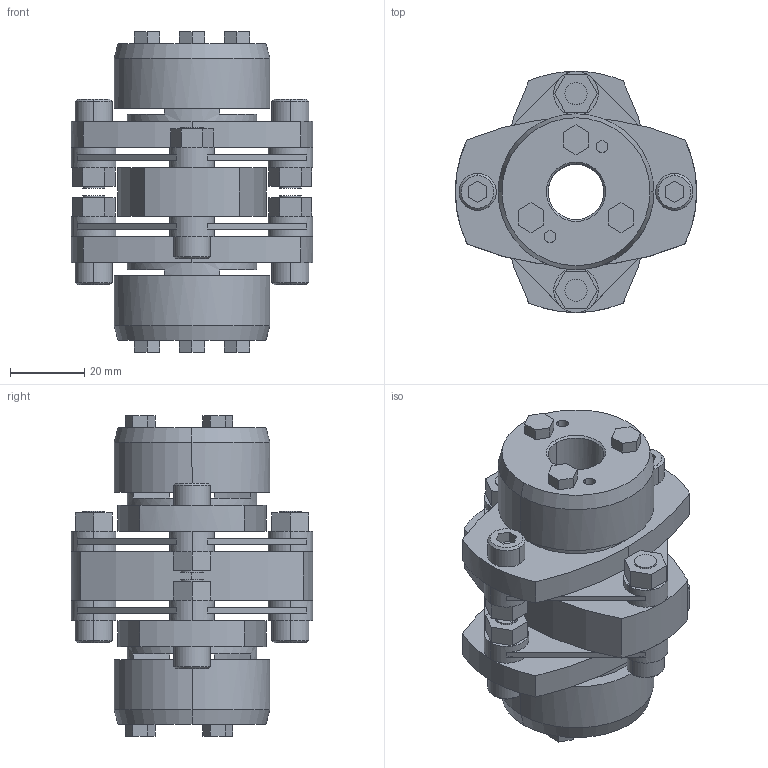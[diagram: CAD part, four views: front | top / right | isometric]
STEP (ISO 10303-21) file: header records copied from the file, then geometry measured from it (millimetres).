
FILE_DESCRIPTION((''),'2;1');
FILE_NAME('LCD-65T7-15×15.stp','2011-08-23T13:36:03',(''),(''),'AutoCAD STEP 2000i','AutoCAD 2000i',', , ');
FILE_SCHEMA(('CONFIG_CONTROL_DESIGN'));
Length unit declared in the file: millimetre
Products named in the file (5): LCD-65T7-15×15; 忣兜1; LC65T7-T015-1; LC65T7-T015; LCD65-ITA
Assembly tree (4 placements, depth 2):
  LCD-65T7-15×15
    忣兜1
    LC65T7-T015-1
    LC65T7-T015
    LCD65-ITA
Bounding box: 65 x 65 x 86.4 mm (x, y, z)
Volume: 111136.8 mm3; surface area: 39655.5 mm2
Topology: 1 solids, 1 shells, 296 faces, 770 edges, 502 vertices
Faces by surface type: plane 176, cylinder 96, cone 24
Entity records: 9303 total; most frequent: DIRECTION 1650, CARTESIAN_POINT 1573, ORIENTED_EDGE 1540, EDGE_CURVE 770, AXIS2_PLACEMENT_3D 579, VERTEX_POINT 502, VECTOR 492, LINE 492
